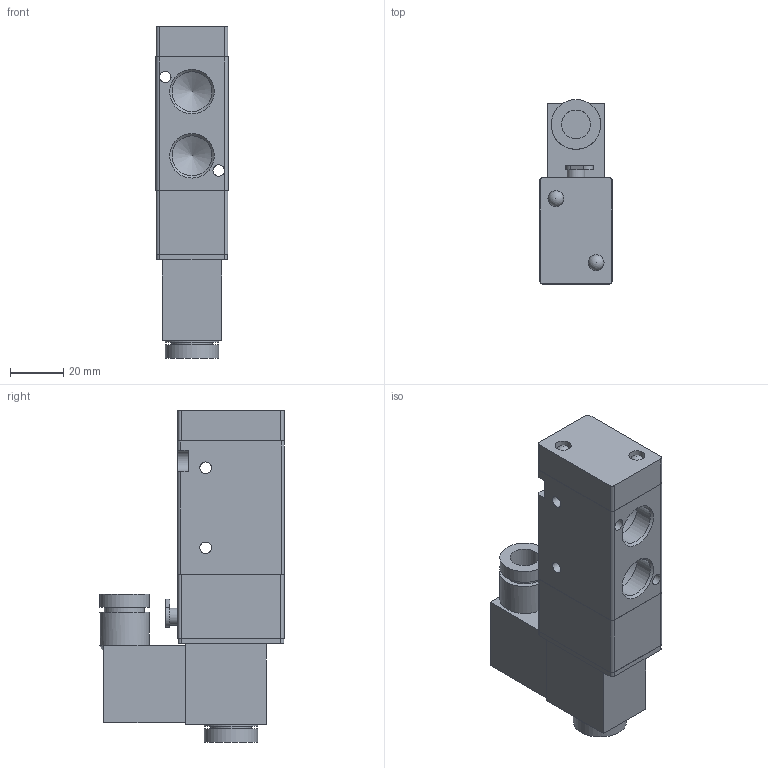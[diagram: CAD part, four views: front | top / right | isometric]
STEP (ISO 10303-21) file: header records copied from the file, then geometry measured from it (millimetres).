
FILE_DESCRIPTION( ( 'STEP AP214' ), '1' );
FILE_NAME( 'C:/Users/emc02044/Desktop/RV三通/RV3231-10QE2.stp', '2026-07-30T12:27:19', ( 'License CC BY-ND 4.0' ), ( 'CADENAS' ), ' ', 'PARTsolutions', ' ' );
FILE_SCHEMA( ( 'AUTOMOTIVE_DESIGN { 1 0 10303 214 1 1 1 1 }' ) );
Length unit declared in the file: millimetre
Products named in the file (2): RV3231-10QE2; _RV3231-10QE2-body
Assembly tree (1 placements, depth 2):
  RV3231-10QE2
    _RV3231-10QE2-body
Bounding box: 27 x 69.2 x 124.3 mm (x, y, z)
Volume: 131008.7 mm3; surface area: 25659.7 mm2
Topology: 1 solids, 1 shells, 96 faces, 244 edges, 162 vertices
Faces by surface type: plane 48, cylinder 39, cone 7, sphere 2
Full cylindrical faces by diameter (mm): 4.3 x4, 6 x2, 6.5 x1, 10.8 x1, 14.95 x3, 15 x2, 18.6 x2, 20 x2
Entity records: 3653 total; most frequent: CARTESIAN_POINT 606, DIRECTION 479, ORIENTED_EDGE 408, EDGE_CURVE 204, AXIS2_PLACEMENT_3D 180, VERTEX_POINT 153, EDGE_LOOP 146, LINE 119
